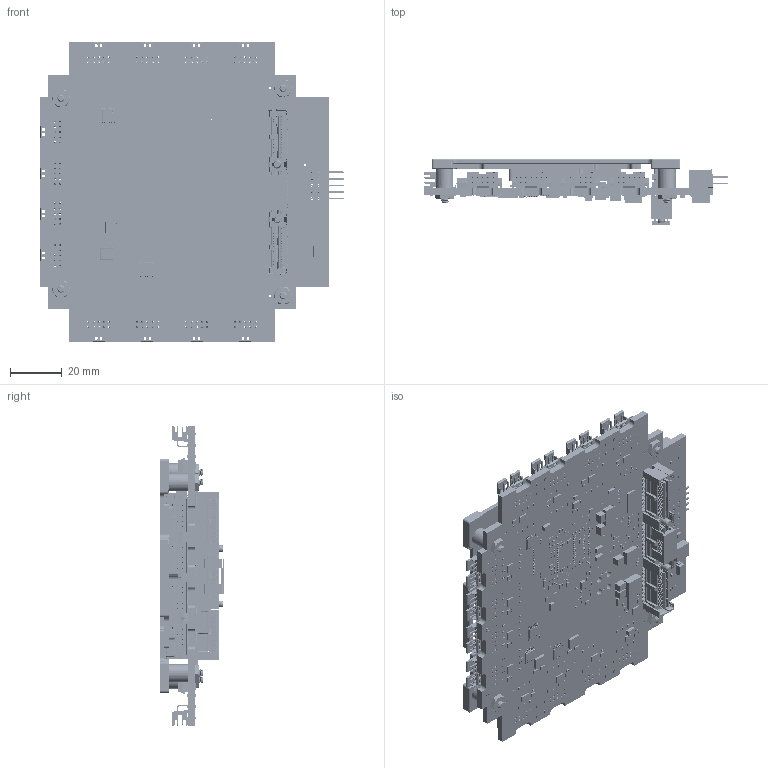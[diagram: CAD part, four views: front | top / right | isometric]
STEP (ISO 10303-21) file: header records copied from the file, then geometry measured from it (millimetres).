
FILE_DESCRIPTION (( 'STEP AP214' ), '1' );
FILE_NAME ('Assembly(0.01) Conduction Cooled XDG023.STEP', '2016-03-31T18:53:34', ( '' ), ( '' ), 'SwSTEP 2.0', 'SolidWorks 2015', '' );
FILE_SCHEMA (( 'AUTOMOTIVE_DESIGN' ));
Length unit declared in the file: inch
Products named in the file (8): 21464 Loctite 222 Threadlocker; GR45A-0H-50GY Thermal Pad, 1.00X1.00_50GR-ae; 92146A530 Lockwasher, #4, Split, SS_92146A530; 91841A005 Nut, 4-40, SS_91841A005; 91772A111 Screw, 4-40X.563 PPHMS, SS_91772A111; XDG013_3D_MODEL; CTIA-00575 REV 0.01  Heat Plate - Top, Conduction Cooled XDG; Assembly(0.01) Conduction Cooled XDG023
Assembly tree (15 placements, depth 2):
  21464 Loctite 222 Threadlocker
  Assembly(0.01) Conduction Cooled XDG023
    CTIA-00575 REV 0.01  Heat Plate - Top, Conduction Cooled XDG
    XDG013_3D_MODEL
    91772A111 Screw, 4-40X.563 PPHMS, SS_91772A111  x4
    91841A005 Nut, 4-40, SS_91841A005  x4
    92146A530 Lockwasher, #4, Split, SS_92146A530  x4
    GR45A-0H-50GY Thermal Pad, 1.00X1.00_50GR-ae
Bounding box: 117.42 x 25.06 x 115.7 mm (x, y, z)
Volume: 27865.7 mm3; surface area: 77726 mm2
Topology: 14 solids, 2167 shells, 22537 faces, 100927 edges, 76781 vertices
Faces by surface type: plane 17538, cylinder 4446, cone 279, bspline 250, torus 16, sphere 8
Entity records: 1278513 total; most frequent: CARTESIAN_POINT 218697, DIRECTION 159171, ORIENTED_EDGE 141281, EDGE_CURVE 99090, VECTOR 77127, LINE 77127, VERTEX_POINT 75624, AXIS2_PLACEMENT_3D 41022
